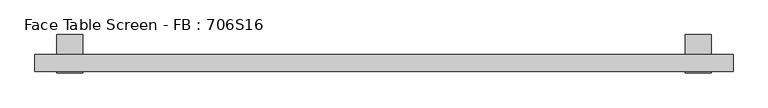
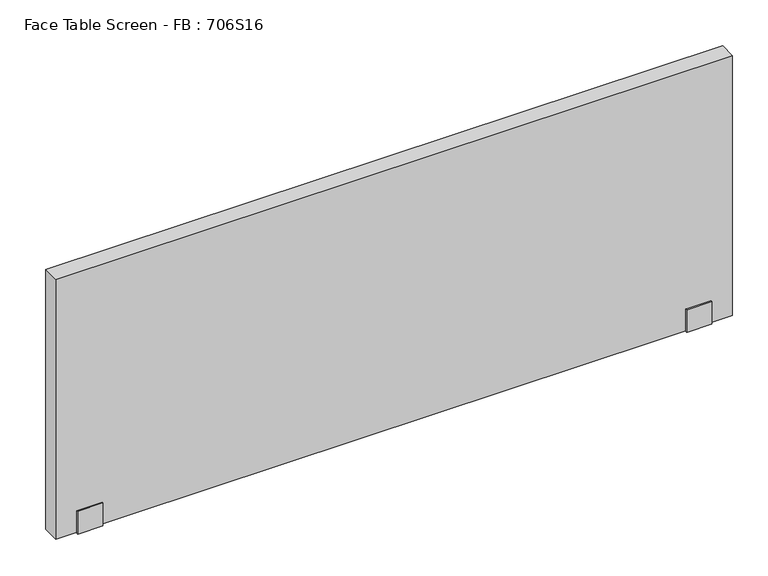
"""IFC4 building model written with IfcOpenShell, lengths in millimetres: furniture geometry, Face Table Screen - FB : 706S16."""

import ifcopenshell
import ifcopenshell.guid

model = None  # the IFC model being written
_history = None  # IfcOwnerHistory: only IFC2X3 demands one
_inside = {}  # id of a spatial element -> (the spatial element, [elements in it])
_under = {}  # id of a project, library or spatial element -> (it, [spatial elements below it])
_declared = {}  # id of a project -> (the project, [libraries it declares])
_typed = {}  # id of a type object -> (the type object, [elements of that type])
_made_of = {}  # id of a material, layer set ... -> (it, [elements and type objects made of it])


def new_model(schema):
    """Start an empty IFC model of exactly this schema.

    Asked for "IFC4X3", IfcOpenShell would pick the latest addendum, in which some entities
    have other attributes; the version numbers below select the first issue.
    IFC2X3 requires an IfcOwnerHistory on every rooted entity: one is made here for all.
    """
    global model, _history
    if schema == "IFC4X3":
        model = ifcopenshell.file(schema_version=(4, 3, 0, 0))
    else:
        model = ifcopenshell.file(schema=schema)
    _inside.clear()
    _under.clear()
    _declared.clear()
    _typed.clear()
    _made_of.clear()
    _history = None
    if model.schema == "IFC2X3":
        org = make("IfcOrganization", Name="unknown")
        user = make(
            "IfcPersonAndOrganization",
            ThePerson=make("IfcPerson", FamilyName="unknown"),
            TheOrganization=org,
        )
        app = make(
            "IfcApplication",
            ApplicationDeveloper=org,
            Version="unknown",
            ApplicationFullName="unknown",
            ApplicationIdentifier="unknown",
        )
        _history = make(
            "IfcOwnerHistory",
            OwningUser=user,
            OwningApplication=app,
            ChangeAction="ADDED",
            CreationDate=0,
        )
    return model


def make(cls, **values):
    """One entity of the class cls with the attributes given. An attribute that is None is left unset."""
    return model.create_entity(
        cls, **{name: value for name, value in values.items() if value is not None}
    )


def rooted(cls, **values):
    """An entity with a GlobalId (a new one), such as an element, a storey or a relation."""
    return make(cls, GlobalId=ifcopenshell.guid.new(), OwnerHistory=_history, **values)


def si_unit(unit_type, name, prefix=None):
    """IfcSIUnit, for example si_unit("LENGTHUNIT", "METRE", prefix="MILLI")."""
    return make("IfcSIUnit", UnitType=unit_type, Prefix=prefix, Name=name)


def assignment(units):
    """IfcUnitAssignment: the units of a project."""
    return None if units is None else make("IfcUnitAssignment", Units=units)


def point(xyz):
    """IfcCartesianPoint."""
    return None if xyz is None else make("IfcCartesianPoint", Coordinates=xyz)


def direction(xyz):
    """IfcDirection."""
    return None if xyz is None else make("IfcDirection", DirectionRatios=xyz)


def frame(location, z_axis=None, x_axis=None):
    """IfcAxis2Placement3D, a coordinate frame: its origin and axes. An axis left out is left unset."""
    return make(
        "IfcAxis2Placement3D",
        Location=point(location),
        Axis=direction(z_axis),
        RefDirection=direction(x_axis),
    )


def origin():
    """The frame at (0, 0, 0) with its axes left unset."""
    return frame((0.0, 0.0, 0.0))


def place(relative_to, where):
    """IfcLocalPlacement: puts the frame where relative to a parent placement (None: the world)."""
    return make(
        "IfcLocalPlacement", PlacementRelTo=relative_to, RelativePlacement=where
    )


def context(
    kind, dimensions, precision=None, world=None, true_north=None, identifier=None
):
    """IfcGeometricRepresentationContext, for example the 3D "Model" context."""
    return make(
        "IfcGeometricRepresentationContext",
        ContextIdentifier=identifier,
        ContextType=kind,
        CoordinateSpaceDimension=dimensions,
        Precision=precision,
        WorldCoordinateSystem=world,
        TrueNorth=true_north,
    )


def project(units=None, contexts=None):
    """IfcProject with its units and contexts."""
    return rooted(
        "IfcProject",
        Name="project",
        RepresentationContexts=contexts,
        UnitsInContext=assignment(units),
    )


def spatial(cls, under=None, at=None, **own):
    """A site, building, storey or space (cls), placed at a placement, below another one or the project."""
    s = rooted(cls, ObjectPlacement=at, **own)
    if under is not None:
        _under.setdefault(under.id(), (under, []))[1].append(s)
    return s


def polyline(points):
    """IfcPolyline through the points."""
    return make("IfcPolyline", Points=[point(p) for p in points])


def outline(outer, holes=None, kind="AREA"):
    """IfcArbitraryClosedProfileDef: a profile drawn as a closed curve; with holes, ...WithVoids."""
    if holes is None:
        return make("IfcArbitraryClosedProfileDef", ProfileType=kind, OuterCurve=outer)
    return make(
        "IfcArbitraryProfileDefWithVoids",
        ProfileType=kind,
        OuterCurve=outer,
        InnerCurves=holes,
    )


def extrude(swept, where, along, depth):
    """IfcExtrudedAreaSolid: the profile swept, set in the frame where, extruded along a direction by depth."""
    return make(
        "IfcExtrudedAreaSolid",
        SweptArea=swept,
        Position=where,
        ExtrudedDirection=direction(along),
        Depth=depth,
    )


def shape(context_of_items, identifier, shape_type, items):
    """IfcShapeRepresentation: the items that make up one representation, for example the "Body"."""
    return make(
        "IfcShapeRepresentation",
        ContextOfItems=context_of_items,
        RepresentationIdentifier=identifier,
        RepresentationType=shape_type,
        Items=items,
    )


def source(mapping_origin, context_of_items, identifier, shape_type, items):
    """IfcRepresentationMap: a shape defined once, which mapped items show again and again."""
    return make(
        "IfcRepresentationMap",
        MappingOrigin=mapping_origin,
        MappedRepresentation=shape(context_of_items, identifier, shape_type, items),
    )


def transform(
    local_origin,
    x_axis=None,
    y_axis=None,
    z_axis=None,
    scale=None,
    scale2=None,
    scale3=None,
    uniform=True,
):
    """IfcCartesianTransformationOperator3D, or its non-uniform kind. x_axis, y_axis, z_axis: its Axis1, 2, 3."""
    if uniform:
        return make(
            "IfcCartesianTransformationOperator3D",
            Axis1=direction(x_axis),
            Axis2=direction(y_axis),
            LocalOrigin=point(local_origin),
            Scale=scale,
            Axis3=direction(z_axis),
        )
    return make(
        "IfcCartesianTransformationOperator3DnonUniform",
        Axis1=direction(x_axis),
        Axis2=direction(y_axis),
        LocalOrigin=point(local_origin),
        Scale=scale,
        Axis3=direction(z_axis),
        Scale2=scale2,
        Scale3=scale3,
    )


def mapped(mapping_source, mapping_target):
    """IfcMappedItem: shows the shape of a source again, moved by a transform."""
    return make(
        "IfcMappedItem", MappingSource=mapping_source, MappingTarget=mapping_target
    )


def made_of(thing, what):
    """Note that an element or type object is made of a material, layer set ...; save() writes the relation."""
    if what is not None:
        _made_of.setdefault(what.id(), (what, []))[1].append(thing)
    return thing


def element(
    cls,
    number,
    at=None,
    inside=None,
    cuts=None,
    type_object=None,
    material=None,
    context=None,
    identifier="Body",
    shape_type=None,
    held_by="IfcProductDefinitionShape",
    body=None,
    shapes=None,
    **own,
):
    """One element of the class cls, such as IfcWall. Its Tag is "e" and its number.

    at: its placement. inside: the storey or other place that contains it. cuts: it is an
    opening in that element (IfcRelVoidsElement). A single representation is given by context,
    identifier, shape_type and body (its items); several are given by shapes. held_by: the class
    of the entity that holds the representations. save() writes the other relations.
    """
    e = rooted(cls, Tag="e%d" % number, ObjectPlacement=at, **own)
    if body is not None:
        shapes = [shape(context, identifier, shape_type, body)]
    if shapes is not None:
        e.Representation = make(held_by, Representations=shapes)
    if inside is not None:
        _inside.setdefault(inside.id(), (inside, []))[1].append(e)
    if cuts is not None:
        rooted(
            "IfcRelVoidsElement", RelatingBuildingElement=cuts, RelatedOpeningElement=e
        )
    if type_object is not None:
        _typed.setdefault(type_object.id(), (type_object, []))[1].append(e)
    return made_of(e, material)


def aggregate(whole, parts):
    """IfcRelAggregates: a whole, such as a stair, and the parts it consists of."""
    return rooted("IfcRelAggregates", RelatingObject=whole, RelatedObjects=parts)


def save(model, path):
    """Write the relations noted so far, then the file.

    IfcRelAggregates (storeys below a building ...), IfcRelContainedInSpatialStructure (elements
    in a storey), IfcRelDefinesByType, IfcRelAssociatesMaterial and IfcRelDeclares: one each for
    every whole, place, type object, material and project.
    """
    for whole, parts in _under.values():
        aggregate(whole, parts)
    for where, things in _inside.values():
        rooted(
            "IfcRelContainedInSpatialStructure",
            RelatedElements=things,
            RelatingStructure=where,
        )
    for kind, things in _typed.values():
        rooted("IfcRelDefinesByType", RelatedObjects=things, RelatingType=kind)
    for what, things in _made_of.values():
        rooted("IfcRelAssociatesMaterial", RelatedObjects=things, RelatingMaterial=what)
    for by, libraries in _declared.values():
        rooted("IfcRelDeclares", RelatingContext=by, RelatedDefinitions=libraries)
    model.write(path)


def face_table_screen_fb_706s16_5bb2e9a6(model_context):
    return source(origin(), model_context, "Body", "SweptSolid", [
        extrude(outline(polyline([(-42.9999947, -256.0), (-42.9999997, -199.0433898), (-40.0, -199.0433898), (-40.0, -253.0), (0.0, -253.0), (0.0, -22.0), (45.0, -22.0), (45.0, -25.0433898), (3.0000062, -25.0433898), (2.9999947, -256.0), (-42.9999947, -256.0)])), frame((709.9863751, 0.0, 0.0), z_axis=(1.0, 0.0, 0.0), x_axis=(0.0, 1.0, 0.0)), (0.0, 0.0, 1.0), 60.0),
        extrude(outline(polyline([(-42.9999947, -256.0), (-42.9999997, -199.0433898), (-40.0, -199.0433898), (-40.0, -253.0), (0.0, -253.0), (0.0, -22.0), (45.0, -22.0), (45.0, -25.0433898), (3.0000062, -25.0433898), (2.9999947, -256.0), (-42.9999947, -256.0)])), frame((-730.0136249, 0.0, 0.0), z_axis=(1.0, 0.0, 0.0), x_axis=(0.0, 1.0, 0.0)), (0.0, 0.0, 1.0), 60.0),
        extrude(outline(polyline([(819.9863751, -40.0), (-780.0136249, -40.0), (-780.0136249, 0.0), (819.9863751, 0.0), (819.9863751, -40.0)])), frame((0.0, 0.0, -253.0), z_axis=(0.0, 0.0, 1.0), x_axis=(1.0, 0.0, 0.0)), (0.0, 0.0, 1.0), 650.0),
    ])


if __name__ == "__main__":
    model = new_model("IFC4")
    model_context = context("Model", 3, world=origin())
    ifc_project = project(units=[si_unit("LENGTHUNIT", "METRE", prefix="MILLI")], contexts=[model_context])
    site = spatial("IfcSite", under=ifc_project)
    building = spatial("IfcBuilding", under=site)
    placement = place(None, origin())
    face_table_screen_fb_706s16_shape = face_table_screen_fb_706s16_5bb2e9a6(model_context)
    element("IfcFurniture", 1, ObjectType="Face Table Screen - FB : 706S16", at=placement, inside=building, context=model_context, shape_type="MappedRepresentation", body=[
        mapped(face_table_screen_fb_706s16_shape, transform((0.0, 0.0, 0.0), x_axis=(1.0, 0.0, 0.0), y_axis=(0.0, 1.0, 0.0), z_axis=(0.0, 0.0, 1.0))),
    ])
    save(model, "model.ifc")
